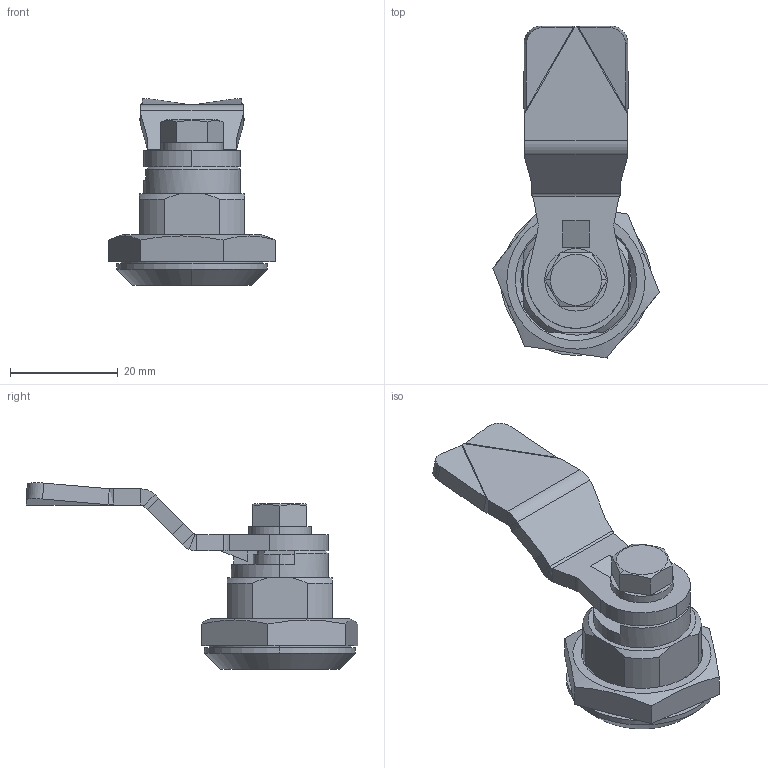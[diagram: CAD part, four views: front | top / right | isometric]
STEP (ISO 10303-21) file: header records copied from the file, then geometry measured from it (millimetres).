
FILE_DESCRIPTION (( 'STEP AP214' ), '1' );
FILE_NAME ('2.ZZR18..STEP', '2010-02-17T18:10:41', ( '£ukaszC' ), ( '' ), 'SwSTEP 2.0', 'SolidWorks 2008', '' );
FILE_SCHEMA (( 'AUTOMOTIVE_DESIGN' ));
Length unit declared in the file: millimetre
Products named in the file (10): Œruba M6x10_Domyœlna; 2.ZZR19.03.00.00; Podk³adka uszczelniaj¹ca_Domyœlna; Oring_Domyœlna; 2.ZZR18.02.03.00_Domyœlna; 2.ZZR18.01.01.00_Domyœlna; 2.ZZR18.; Podk³adka M6_Domyœlna; 1C.J-16029.02.00.00_Domyœlna; Podk³adka falista M22_Domyœlna
Assembly tree (9 placements, depth 2):
  2.ZZR18.
    1C.J-16029.02.00.00_Domyœlna
    2.ZZR18.01.01.00_Domyœlna
    Œruba M6x10_Domyœlna
    2.ZZR18.02.03.00_Domyœlna
    Oring_Domyœlna
    Podk³adka falista M22_Domyœlna
    2.ZZR19.03.00.00
    Podk³adka M6_Domyœlna
    Podk³adka uszczelniaj¹ca_Domyœlna
Bounding box: 30.86 x 61.59 x 34.64 mm (x, y, z)
Volume: 11285.2 mm3; surface area: 10199.9 mm2
Topology: 9 solids, 9 shells, 192 faces, 454 edges, 285 vertices
Faces by surface type: plane 95, cylinder 54, cone 27, bspline 14, torus 2
Entity records: 9248 total; most frequent: CARTESIAN_POINT 4528, ORIENTED_EDGE 904, DIRECTION 889, EDGE_CURVE 452, AXIS2_PLACEMENT_3D 327, VERTEX_POINT 285, VECTOR 235, LINE 235
